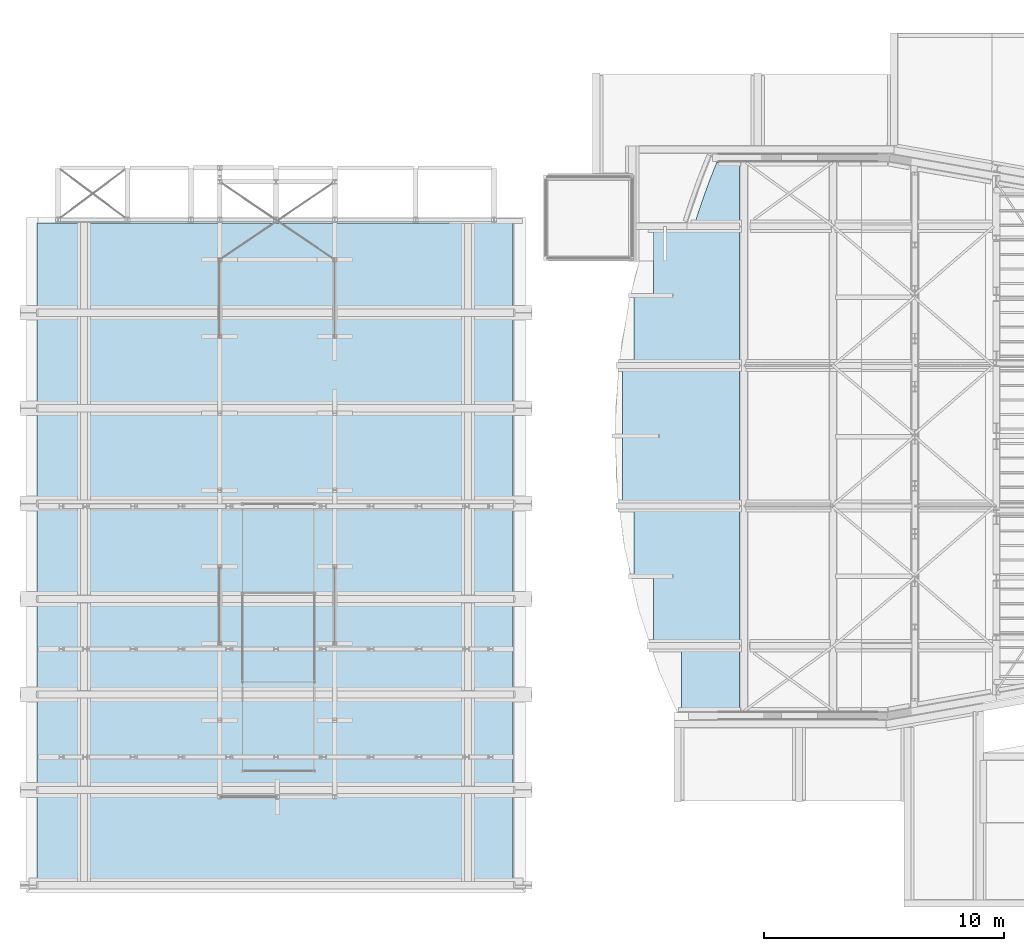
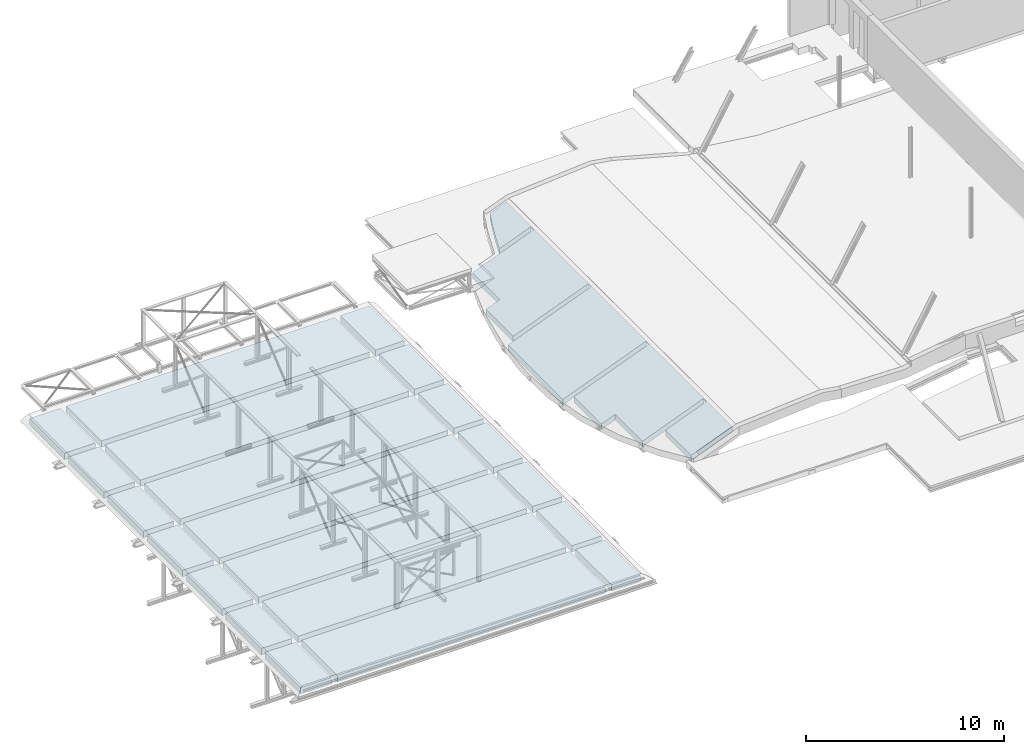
# One storey, part 36 of 50: 2 slabs, 4 openings.
"""IFC2X3 building model written with IfcOpenShell, lengths in millimetres."""

from ifc_helpers import new_model, entity, si_unit, converted_unit, derived_unit, direction, frame, frame_2d, origin, origin_2d_with_axis, place, context, subcontext, project, spatial, polyline, ellipse_curve, parameter, trimmed, segment, composite_curve, rectangle, outline, extrude, faceted_brep, material, layer, layer_set, layer_usage, type_object, element, save


model = new_model("IFC2X3")

# Units and contexts
model_context = context("Model", 3, precision=0.01, world=origin(), true_north=direction((6.12303176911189e-17, 1.0)))
body_context = subcontext(model_context, "Body", "Model", "MODEL_VIEW")
ifc_project = project(units=[si_unit("LENGTHUNIT", "METRE", prefix="MILLI"), si_unit("AREAUNIT", "SQUARE_METRE", prefix="MILLI"), si_unit("VOLUMEUNIT", "CUBIC_METRE"), converted_unit("PLANEANGLEUNIT", "DEGREE", entity("IfcRatioMeasure", 0.0174532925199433), si_unit("PLANEANGLEUNIT", "RADIAN"), dimensions=[0, 0, 0, 0, 0, 0, 0]), si_unit("MASSUNIT", "GRAM", prefix="KILO"), derived_unit("MASSDENSITYUNIT", [(si_unit("MASSUNIT", "GRAM", prefix="KILO"), 1), (si_unit("LENGTHUNIT", "METRE"), -3)]), derived_unit("MOMENTOFINERTIAUNIT", [(si_unit("LENGTHUNIT", "METRE"), 4)]), si_unit("TIMEUNIT", "SECOND"), si_unit("FREQUENCYUNIT", "HERTZ"), si_unit("THERMODYNAMICTEMPERATUREUNIT", "DEGREE_CELSIUS"), derived_unit("THERMALTRANSMITTANCEUNIT", [(si_unit("MASSUNIT", "GRAM", prefix="KILO"), 1), (si_unit("THERMODYNAMICTEMPERATUREUNIT", "KELVIN"), -1), (si_unit("TIMEUNIT", "SECOND"), -3)]), derived_unit("VOLUMETRICFLOWRATEUNIT", [(si_unit("LENGTHUNIT", "METRE"), 3), (si_unit("TIMEUNIT", "SECOND"), -1)]), si_unit("ELECTRICCURRENTUNIT", "AMPERE"), si_unit("ELECTRICVOLTAGEUNIT", "VOLT"), si_unit("POWERUNIT", "WATT"), si_unit("FORCEUNIT", "NEWTON", prefix="KILO"), si_unit("ILLUMINANCEUNIT", "LUX"), si_unit("LUMINOUSFLUXUNIT", "LUMEN"), si_unit("LUMINOUSINTENSITYUNIT", "CANDELA"), derived_unit("USERDEFINED", [(si_unit("MASSUNIT", "GRAM", prefix="KILO"), -1), (si_unit("LENGTHUNIT", "METRE"), -2), (si_unit("TIMEUNIT", "SECOND"), 3), (si_unit("LUMINOUSFLUXUNIT", "LUMEN"), 1)]), derived_unit("LINEARVELOCITYUNIT", [(si_unit("LENGTHUNIT", "METRE"), 1), (si_unit("TIMEUNIT", "SECOND"), -1)]), si_unit("PRESSUREUNIT", "PASCAL"), derived_unit("USERDEFINED", [(si_unit("LENGTHUNIT", "METRE"), -2), (si_unit("MASSUNIT", "GRAM", prefix="KILO"), 1), (si_unit("TIMEUNIT", "SECOND"), -2)]), derived_unit("LINEARFORCEUNIT", [(si_unit("MASSUNIT", "GRAM", prefix="KILO"), 1), (si_unit("LENGTHUNIT", "METRE"), 1), (si_unit("TIMEUNIT", "SECOND"), -2), (si_unit("LENGTHUNIT", "METRE"), -1)]), derived_unit("PLANARFORCEUNIT", [(si_unit("MASSUNIT", "GRAM", prefix="KILO"), 1), (si_unit("LENGTHUNIT", "METRE"), 1), (si_unit("TIMEUNIT", "SECOND"), -2), (si_unit("LENGTHUNIT", "METRE"), -2)])], contexts=[model_context])

# Site, building, storey
site_placement = place(None, origin())
site = spatial("IfcSite", under=ifc_project, at=site_placement, Name="Theater aan de Parade", CompositionType="ELEMENT")
building_placement = place(site_placement, origin())
building = spatial("IfcBuilding", under=site, at=building_placement, Name="Theater aan de Parade", CompositionType="ELEMENT")
storey_placement = place(building_placement, frame((0.0, 0.0, 15820.0)))
storey = spatial("IfcBuildingStorey", under=building, at=storey_placement, Name="04 vierde verdieping", CompositionType="ELEMENT", Elevation=15820.0)

# Slab
ifc_material = material(Name="00_PBT_MAT_systeemvloer")
ifc_layer_1 = layer(ifc_material, 400.0)
ifc_layer_set_1 = layer_set([ifc_layer_1], Name="Floor:28_PBT_FL_kanaalplaat_d=400")
ifc_layer_usage_1 = layer_usage(ifc_layer_set_1, "AXIS3", "POSITIVE", 0.0)
slab_type_1 = type_object("IfcSlabType", Name="Floor:28_PBT_FL_kanaalplaat_d=400", PredefinedType="FLOOR", material=ifc_layer_set_1)
slab_1_placement = place(storey_placement, origin())
element("IfcSlab", 1, at=slab_1_placement, inside=storey, type_object=slab_type_1, material=ifc_layer_usage_1, Name="Floor:28_PBT_FL_kanaalplaat_d=400", ObjectType="Floor:28_PBT_FL_kanaalplaat_d=400", PredefinedType="FLOOR", context=body_context, shape_type="SweptSolid", body=[
    extrude(rectangle(XDim=1710.56884748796, YDim=3600.0, at=frame_2d((-2.21689333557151e-12, -2.1600499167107e-12), x_axis=(1.0, 0.0))), frame((35134.641426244, 15704.2274014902, -430.0), z_axis=(0.0, 0.0, 1.0), x_axis=(-1.0, 0.0, 0.0)), (0.0, 0.0, 1.0), 400.0),
    extrude(rectangle(XDim=1800.5677198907, YDim=3600.0, at=frame_2d((2.1600499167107e-12, 0.0), x_axis=(1.0, 0.0))), frame((17028.0731425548, 15704.2274014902, -430.0)), (0.0, 0.0, 1.0), 400.0),
    extrude(rectangle(XDim=15670.9999999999, YDim=3600.0, at=frame_2d((-2.27373675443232e-12, 0.0), x_axis=(1.0, 0.0))), frame((26103.8570025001, 15704.2274014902, -430.0)), (0.0, 0.0, 1.0), 400.0),
    extrude(rectangle(XDim=1710.56884748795, YDim=3600.0, at=frame_2d((-2.1600499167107e-12, 0.0), x_axis=(1.0, 0.0))), frame((35134.641426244, 19684.2274014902, -430.0), z_axis=(0.0, 0.0, 1.0), x_axis=(-1.0, 0.0, 0.0)), (0.0, 0.0, 1.0), 400.0),
    extrude(rectangle(XDim=1800.56771989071, YDim=3600.0, at=frame_2d((1.08002495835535e-12, 0.0), x_axis=(1.0, 0.0))), frame((17028.0731425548, 19684.2274014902, -430.0)), (0.0, 0.0, 1.0), 400.0),
    extrude(rectangle(XDim=15670.9999999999, YDim=3600.0, at=frame_2d((-3.63797880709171e-12, 0.0), x_axis=(1.0, 0.0))), frame((26103.8570025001, 19684.2274014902, -430.0)), (0.0, 0.0, 1.0), 400.0),
    extrude(rectangle(XDim=1710.56884748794, YDim=3600.0, at=origin_2d_with_axis()), frame((35134.641426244, 23664.2274014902, -430.0), z_axis=(0.0, 0.0, 1.0), x_axis=(-1.0, 0.0, 0.0)), (0.0, 0.0, 1.0), 400.0),
    extrude(rectangle(XDim=1800.56771989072, YDim=3600.0, at=origin_2d_with_axis()), frame((17028.0731425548, 23664.2274014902, -430.0)), (0.0, 0.0, 1.0), 400.0),
    extrude(rectangle(XDim=1710.56884748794, YDim=3600.0, at=origin_2d_with_axis()), frame((35134.641426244, 27644.2274014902, -430.0), z_axis=(0.0, 0.0, 1.0), x_axis=(-1.0, 0.0, 0.0)), (0.0, 0.0, 1.0), 400.0),
    extrude(rectangle(XDim=1800.56771989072, YDim=3600.0, at=frame_2d((3.24007487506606e-12, 0.0), x_axis=(1.0, 0.0))), frame((17028.0731425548, 27644.2274014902, -430.0)), (0.0, 0.0, 1.0), 400.0),
    extrude(rectangle(XDim=15670.9999999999, YDim=3600.0, at=frame_2d((-3.63797880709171e-12, 0.0), x_axis=(1.0, 0.0))), frame((26103.8570025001, 27644.2274014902, -430.0)), (0.0, 0.0, 1.0), 400.0),
    extrude(rectangle(XDim=1710.56884748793, YDim=3600.0, at=frame_2d((-2.1600499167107e-12, 0.0), x_axis=(1.0, 0.0))), frame((35134.641426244, 31624.2274014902, -430.0), z_axis=(0.0, 0.0, 1.0), x_axis=(-1.0, 0.0, 0.0)), (0.0, 0.0, 1.0), 400.0),
    extrude(rectangle(XDim=1800.56771989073, YDim=3600.0, at=frame_2d((1.08002495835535e-12, 0.0), x_axis=(1.0, 0.0))), frame((17028.0731425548, 31624.2274014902, -430.0)), (0.0, 0.0, 1.0), 400.0),
    extrude(rectangle(XDim=15670.9999999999, YDim=3600.0, at=frame_2d((-4.54747350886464e-12, 0.0), x_axis=(1.0, 0.0))), frame((26103.8570025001, 31624.2274014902, -430.0)), (0.0, 0.0, 1.0), 400.0),
    extrude(rectangle(XDim=1710.56884748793, YDim=3600.0, at=frame_2d((-4.32009983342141e-12, 0.0), x_axis=(1.0, 0.0))), frame((35134.641426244, 35604.2274014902, -430.0), z_axis=(0.0, 0.0, 1.0), x_axis=(-1.0, 0.0, 0.0)), (0.0, 0.0, 1.0), 400.0),
    extrude(rectangle(XDim=1800.56771989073, YDim=3600.0, at=frame_2d((3.24007487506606e-12, 0.0), x_axis=(1.0, 0.0))), frame((17028.0731425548, 35604.2274014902, -430.0)), (0.0, 0.0, 1.0), 400.0),
    extrude(rectangle(XDim=15670.9999999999, YDim=3600.0, at=frame_2d((-3.63797880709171e-12, 0.0), x_axis=(1.0, 0.0))), frame((26103.8570025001, 35604.2274014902, -430.0)), (0.0, 0.0, 1.0), 400.0),
    extrude(rectangle(XDim=1710.56884748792, YDim=3549.99999999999, at=frame_2d((0.0, 584.693641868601), x_axis=(1.0, 0.0))), frame((35134.6414262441, 40143.9210433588, -430.0), z_axis=(0.0, 0.0, 1.0), x_axis=(-1.0, 0.0, 0.0)), (0.0, 0.0, 1.0), 400.0),
    extrude(rectangle(XDim=1800.56771989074, YDim=3549.99999999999, at=frame_2d((3.24007487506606e-12, -2.1600499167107e-12), x_axis=(1.0, 0.0))), frame((17028.0731425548, 39559.2274014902, -430.0)), (0.0, 0.0, 1.0), 400.0),
    extrude(rectangle(XDim=15670.9999999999, YDim=3549.99999999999, at=frame_2d((-2509.27675678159, -588.180154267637), x_axis=(1.0, 0.0))), frame((28613.1337592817, 40147.4075557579, -430.0)), (0.0, 0.0, 1.0), 400.0),
    extrude(rectangle(XDim=15670.9999999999, YDim=3600.0, at=frame_2d((4.54747350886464e-12, 0.0), x_axis=(1.0, 0.0))), frame((26103.8570025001, 23664.2274014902, -430.0), z_axis=(0.0, 0.0, 1.0), x_axis=(-1.0, 0.0, 0.0)), (0.0, 0.0, 1.0), 400.0),
])

# Slab, openings
ifc_layer_2 = layer(ifc_material, 320.0)
ifc_layer_set_2 = layer_set([ifc_layer_2], Name="Floor:28_PBT_FL_kanaalplaat_d=320")
ifc_layer_usage_2 = layer_usage(ifc_layer_set_2, "AXIS3", "POSITIVE", 0.0)
slab_type_2 = type_object("IfcSlabType", Name="Floor:28_PBT_FL_kanaalplaat_d=320", PredefinedType="FLOOR", material=ifc_layer_set_2)
slab_2_placement = place(storey_placement, frame((40562.3668347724, 20980.0, -695.570109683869)))
slab_2 = element("IfcSlab", 2, at=slab_2_placement, inside=storey, type_object=slab_type_2, material=ifc_layer_usage_2, Name="Floor:28_PBT_FL_kanaalplaat_d=320", ObjectType="Floor:28_PBT_FL_kanaalplaat_d=320", PredefinedType="FLOOR", context=body_context, shape_type="SweptSolid", body=[
    extrude(outline(composite_curve([segment(polyline([(2770.26541681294, -12300.7252410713), (2770.26541681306, 10579.2747589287)]), True, "CONTINUOUS"), segment(polyline([(2770.26541681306, 10579.2747589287), (1742.11446642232, 10579.2747589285)]), True, "CONTINUOUS"), segment(trimmed(ellipse_curve(frame_2d((31556.624371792, -830.725241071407), x_axis=(0.0, 1.0)), 30030.0, 32231.7061677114), [parameter(67.6692050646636)], [parameter(73.062554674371)], True, "PARAMETER"), True, "CONTINUOUS"), segment(polyline([(723.020255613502, 7917.83812628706), (-1093.67538251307, 7917.83812628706)]), True, "CONTINUOUS"), segment(polyline([(-1093.67538251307, 7917.83812628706), (-1093.67538251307, 5015.03676750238)]), True, "CONTINUOUS"), segment(polyline([(-1093.67538251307, 5015.03676750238), (-1960.70203204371, 5015.03676750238)]), True, "CONTINUOUS"), segment(polyline([(-1960.70203204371, 5015.03676750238), (-1960.70203204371, 2081.28676750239)]), True, "CONTINUOUS"), segment(polyline([(-1960.70203204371, 2081.28676750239), (-2464.98063631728, 2081.28676750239)]), True, "CONTINUOUS"), segment(polyline([(-2464.98063631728, 2081.28676750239), (-2464.98063631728, -3742.73724964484)]), True, "CONTINUOUS"), segment(polyline([(-2464.98063631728, -3742.73724964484), (-1960.70203204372, -3742.73724964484)]), True, "CONTINUOUS"), segment(polyline([(-1960.70203204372, -3742.73724964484), (-1960.70203204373, -6676.48724964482)]), True, "CONTINUOUS"), segment(polyline([(-1960.70203204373, -6676.48724964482), (-1093.67538251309, -6676.48724964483)]), True, "CONTINUOUS"), segment(polyline([(-1093.67538251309, -6676.48724964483), (-1093.6753825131, -9571.78860842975)]), True, "CONTINUOUS"), segment(polyline([(-1093.6753825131, -9571.78860842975), (172.838546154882, -9571.78860842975)]), True, "CONTINUOUS"), segment(polyline([(172.838546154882, -9571.78860842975), (172.838546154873, -12300.7252410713)]), True, "CONTINUOUS"), segment(polyline([(172.838546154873, -12300.7252410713), (2770.26541681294, -12300.7252410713)]), True, "CONTINUOUS")], self_intersect=False)), frame((2296.60099665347, 12300.7252410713, 1238.86823906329), z_axis=(-0.363251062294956, 0.0, 0.931691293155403), x_axis=(0.931691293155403, 0.0, 0.363251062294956)), (-0.363251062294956, 0.0, -0.931691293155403), 343.461404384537),
])
opening_1_placement = place(slab_2_placement, frame((981.65012466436, 2473.93663264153, 423.390549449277)))
element("IfcOpeningElement", 3, at=opening_1_placement, cuts=slab_2, ObjectType="Opening", context=body_context, shape_type="Brep", body=[
    faceted_brep([(3857.20168220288, 105.0, 1806.6597431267), (3857.20168220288, 405.0, 1806.6597431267), (0.0, 405.0, 302.7996489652), (0.0, 105.0, 302.7996489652), (3974.53182964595, 0.0, 1505.72347661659), (3974.89508087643, 0.0, 1504.79178538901), (3974.89508087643, 105.0, 1504.79178538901), (3974.89508087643, 405.0, 1504.79178538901), (3975.25833210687, 105.0, 1503.8600941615), (3975.25833210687, 405.0, 1503.8600941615), (3974.53182964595, 510.0, 1505.72347661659), (3974.89508087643, 510.0, 1504.79178538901), (3974.53182964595, 405.0, 1505.72347661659), (3974.53182964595, 105.0, 1505.72347661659), (117.693398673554, 105.0, 0.931691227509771), (117.693398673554, 0.0, 0.931691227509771), (117.330147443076, 0.0, 1.86338245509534), (118.056649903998, 105.0, 0.0), (117.693398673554, 405.0, 0.931691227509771), (118.056649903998, 405.0, 0.0), (117.693398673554, 510.0, 0.931691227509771), (117.330147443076, 510.0, 1.86338245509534), (117.330147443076, 405.0, 1.86338245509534), (117.330147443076, 105.0, 1.86338245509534), (3509.04946708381, 405.0, 1323.16617015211), (3508.68621585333, 405.0, 1324.09786137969), (257.447082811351, 405.0, 55.4193757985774), (257.083831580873, 405.0, 56.351067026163), (3601.85533861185, 105.0, 1360.42298442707), (3602.21858984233, 105.0, 1359.49129319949), (210.862521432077, 105.0, 37.2568142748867), (210.499270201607, 105.0, 38.1885055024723), (257.083831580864, 510.0, 56.351067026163), (257.447082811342, 510.0, 55.4193757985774), (210.499270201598, 0.0, 38.1885055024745), (210.862521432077, 0.0, 37.2568142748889), (3508.68621585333, 510.0, 1324.0978613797), (3509.04946708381, 510.0, 1323.16617015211), (3601.85533861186, 0.0, 1360.42298442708), (3602.21858984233, 0.0, 1359.49129319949)], [[[0, 1, 2]], [[2, 3, 0]], [[4, 5, 6]], [[7, 6, 8]], [[8, 9, 7]], [[10, 7, 11]], [[7, 12, 6]], [[1, 0, 13]], [[6, 12, 13]], [[12, 7, 10]], [[13, 12, 1]], [[13, 4, 6]], [[14, 15, 16]], [[17, 14, 18]], [[18, 19, 17]], [[20, 18, 21]], [[14, 22, 18]], [[23, 3, 2]], [[23, 22, 14]], [[21, 18, 22]], [[2, 22, 23]], [[14, 16, 23]], [[9, 24, 7]], [[24, 9, 19]], [[1, 12, 25]], [[1, 25, 2]], [[24, 26, 25]], [[26, 19, 18]], [[19, 26, 24]], [[27, 22, 2]], [[27, 2, 25]], [[26, 27, 25]], [[0, 28, 13]], [[28, 0, 3]], [[8, 6, 29]], [[8, 29, 17]], [[28, 30, 29]], [[31, 3, 23]], [[3, 31, 28]], [[30, 14, 17]], [[30, 17, 29]], [[31, 30, 28]], [[9, 8, 17]], [[17, 19, 9]], [[22, 27, 32]], [[32, 21, 22]], [[20, 33, 26]], [[26, 18, 20]], [[32, 27, 33]], [[26, 33, 27]], [[21, 32, 33]], [[33, 20, 21]], [[34, 31, 16]], [[23, 16, 31]], [[15, 14, 35]], [[30, 35, 14]], [[34, 16, 15]], [[15, 35, 34]], [[31, 34, 35]], [[35, 30, 31]], [[25, 12, 36]], [[10, 36, 12]], [[37, 11, 24]], [[7, 24, 11]], [[36, 10, 11]], [[11, 37, 36]], [[25, 36, 37]], [[37, 24, 25]], [[38, 4, 13]], [[13, 28, 38]], [[29, 6, 5]], [[5, 39, 29]], [[38, 28, 29]], [[29, 39, 38]], [[4, 38, 39]], [[39, 5, 4]]]),
])
opening_2_placement = place(slab_2_placement, frame((-304.083769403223, 8302.98799142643, -77.8961486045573)))
element("IfcOpeningElement", 4, at=opening_2_placement, cuts=slab_2, ObjectType="Opening", context=body_context, shape_type="Brep", body=[
    faceted_brep([(5142.93557627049, 105.0, 2307.94644118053), (5142.93557627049, 405.0, 2307.94644118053), (0.0, 405.0, 302.7996489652), (0.0, 105.0, 302.7996489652), (5260.26572371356, 0.0, 2007.01017467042), (5260.62897494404, 0.0, 2006.07848344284), (5260.62897494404, 105.0, 2006.07848344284), (5260.62897494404, 405.0, 2006.07848344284), (5260.99222617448, 105.0, 2005.14679221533), (5260.99222617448, 405.0, 2005.14679221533), (5260.26572371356, 510.0, 2007.01017467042), (5260.62897494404, 510.0, 2006.07848344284), (5260.26572371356, 405.0, 2007.01017467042), (5260.26572371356, 105.0, 2007.01017467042), (117.693398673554, 105.0, 0.931691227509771), (117.693398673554, 0.0, 0.931691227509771), (117.330147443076, 0.0, 1.86338245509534), (118.056649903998, 105.0, 0.0), (117.693398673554, 405.0, 0.931691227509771), (118.056649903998, 405.0, 0.0), (117.693398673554, 510.0, 0.931691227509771), (117.330147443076, 510.0, 1.86338245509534), (117.330147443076, 405.0, 1.86338245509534), (117.330147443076, 105.0, 1.86338245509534), (4794.78336115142, 405.0, 1824.45286820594), (4794.42010992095, 405.0, 1825.38455943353), (257.447082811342, 405.0, 55.4193757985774), (257.083831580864, 405.0, 56.351067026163), (4887.58923267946, 105.0, 1861.70968248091), (4887.95248390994, 105.0, 1860.77799125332), (210.862521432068, 105.0, 37.2568142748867), (210.499270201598, 105.0, 38.1885055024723), (257.083831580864, 510.0, 56.351067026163), (257.447082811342, 510.0, 55.4193757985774), (210.499270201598, 0.0, 38.1885055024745), (210.862521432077, 0.0, 37.2568142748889), (4794.42010992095, 510.0, 1825.38455943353), (4794.78336115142, 510.0, 1824.45286820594), (4887.58923267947, 0.0, 1861.70968248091), (4887.95248390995, 0.0, 1860.77799125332)], [[[0, 1, 2]], [[2, 3, 0]], [[4, 5, 6]], [[7, 6, 8]], [[8, 9, 7]], [[10, 7, 11]], [[7, 12, 6]], [[1, 0, 13]], [[6, 12, 13]], [[12, 7, 10]], [[13, 12, 1]], [[13, 4, 6]], [[14, 15, 16]], [[17, 14, 18]], [[18, 19, 17]], [[20, 18, 21]], [[14, 22, 18]], [[23, 3, 2]], [[23, 22, 14]], [[21, 18, 22]], [[2, 22, 23]], [[14, 16, 23]], [[9, 24, 7]], [[24, 9, 19]], [[1, 12, 25]], [[1, 25, 2]], [[24, 26, 25]], [[26, 19, 18]], [[19, 26, 24]], [[27, 22, 2]], [[27, 2, 25]], [[26, 27, 25]], [[0, 28, 13]], [[28, 0, 3]], [[8, 6, 29]], [[8, 29, 17]], [[28, 30, 29]], [[31, 3, 23]], [[3, 31, 28]], [[30, 14, 17]], [[30, 17, 29]], [[31, 30, 28]], [[9, 8, 17]], [[17, 19, 9]], [[22, 27, 32]], [[32, 21, 22]], [[20, 33, 18]], [[26, 18, 33]], [[32, 27, 33]], [[26, 33, 27]], [[21, 32, 33]], [[33, 20, 21]], [[34, 31, 23]], [[23, 16, 34]], [[15, 14, 35]], [[30, 35, 14]], [[34, 16, 15]], [[15, 35, 34]], [[31, 34, 35]], [[35, 30, 31]], [[25, 12, 10]], [[10, 36, 25]], [[37, 11, 24]], [[7, 24, 11]], [[36, 10, 11]], [[11, 37, 36]], [[25, 36, 37]], [[37, 24, 25]], [[38, 4, 28]], [[13, 28, 4]], [[29, 6, 5]], [[5, 39, 29]], [[38, 28, 29]], [[29, 39, 38]], [[4, 38, 39]], [[39, 5, 4]]]),
])
opening_3_placement = place(slab_2_placement, frame((-308.527631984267, 14154.5120085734, -79.6287382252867)))
element("IfcOpeningElement", 5, at=opening_3_placement, cuts=slab_2, ObjectType="Opening", context=body_context, shape_type="Brep", body=[
    faceted_brep([(5147.37943885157, 105.0, 2309.67903080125), (5147.37943885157, 405.0, 2309.67903080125), (0.0, 405.0, 302.7996489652), (0.0, 105.0, 302.7996489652), (5264.70958629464, 0.0, 2008.74276429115), (5265.07283752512, 0.0, 2007.81107306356), (5265.07283752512, 105.0, 2007.81107306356), (5265.07283752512, 405.0, 2007.81107306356), (5265.43608875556, 105.0, 2006.87938183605), (5265.43608875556, 405.0, 2006.87938183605), (5264.70958629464, 510.0, 2008.74276429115), (5265.07283752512, 510.0, 2007.81107306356), (5264.70958629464, 405.0, 2008.74276429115), (5264.70958629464, 105.0, 2008.74276429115), (117.693398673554, 105.0, 0.931691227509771), (117.693398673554, 0.0, 0.931691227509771), (117.330147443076, 0.0, 1.86338245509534), (118.056649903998, 105.0, 0.0), (117.693398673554, 405.0, 0.931691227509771), (118.056649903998, 405.0, 0.0), (117.693398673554, 510.0, 0.931691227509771), (117.330147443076, 510.0, 1.86338245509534), (117.330147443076, 405.0, 1.86338245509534), (117.330147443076, 105.0, 1.86338245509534), (4799.2272237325, 405.0, 1826.18545782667), (4798.86397250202, 405.0, 1827.11714905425), (257.447082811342, 405.0, 55.4193757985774), (257.083831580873, 405.0, 56.351067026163), (4892.03309526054, 105.0, 1863.44227210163), (4892.39634649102, 105.0, 1862.51058087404), (210.862521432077, 105.0, 37.2568142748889), (210.499270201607, 105.0, 38.1885055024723), (257.083831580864, 510.0, 56.351067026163), (257.447082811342, 510.0, 55.4193757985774), (210.499270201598, 0.0, 38.1885055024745), (210.862521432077, 0.0, 37.2568142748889), (4798.86397250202, 510.0, 1827.11714905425), (4799.2272237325, 510.0, 1826.18545782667), (4892.03309526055, 0.0, 1863.44227210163), (4892.39634649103, 0.0, 1862.51058087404)], [[[0, 1, 2]], [[2, 3, 0]], [[4, 5, 6]], [[7, 6, 8]], [[8, 9, 7]], [[10, 7, 11]], [[7, 12, 6]], [[1, 0, 13]], [[6, 12, 13]], [[12, 7, 10]], [[13, 12, 1]], [[13, 4, 6]], [[14, 15, 16]], [[17, 14, 18]], [[18, 19, 17]], [[20, 18, 21]], [[14, 22, 18]], [[23, 3, 2]], [[23, 22, 14]], [[21, 18, 22]], [[2, 22, 23]], [[14, 16, 23]], [[9, 24, 7]], [[24, 9, 19]], [[1, 12, 25]], [[1, 25, 2]], [[24, 26, 25]], [[26, 19, 18]], [[19, 26, 24]], [[27, 22, 2]], [[27, 2, 25]], [[26, 27, 25]], [[0, 28, 13]], [[28, 0, 3]], [[8, 6, 29]], [[8, 29, 17]], [[28, 30, 29]], [[31, 3, 23]], [[3, 31, 28]], [[30, 14, 17]], [[30, 17, 29]], [[31, 30, 28]], [[9, 8, 17]], [[17, 19, 9]], [[22, 27, 32]], [[32, 21, 22]], [[20, 33, 26]], [[26, 18, 20]], [[32, 27, 33]], [[26, 33, 27]], [[21, 32, 33]], [[33, 20, 21]], [[34, 31, 23]], [[23, 16, 34]], [[15, 14, 35]], [[30, 35, 14]], [[34, 16, 15]], [[15, 35, 34]], [[31, 34, 35]], [[35, 30, 31]], [[25, 12, 10]], [[10, 36, 25]], [[37, 11, 24]], [[7, 24, 11]], [[36, 10, 11]], [[11, 37, 36]], [[25, 36, 37]], [[37, 24, 25]], [[38, 4, 28]], [[13, 28, 4]], [[29, 6, 5]], [[5, 39, 29]], [[38, 28, 29]], [[29, 39, 38]], [[4, 38, 39]], [[39, 5, 4]]]),
])
opening_4_placement = place(slab_2_placement, frame((865.188721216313, 19963.5633673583, 377.984145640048)))
element("IfcOpeningElement", 6, at=opening_4_placement, cuts=slab_2, ObjectType="Opening", context=body_context, shape_type="Brep", body=[
    faceted_brep([(3973.66308565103, 105.0, 1852.06614693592), (3973.66308565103, 405.0, 1852.06614693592), (0.0, 405.0, 302.7996489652), (0.0, 105.0, 302.7996489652), (3625.14761930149, 510.0, 1369.50426518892), (4090.9932330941, 510.0, 1551.12988042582), (4091.35648432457, 510.0, 1550.19818919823), (3625.51087053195, 510.0, 1368.57257396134), (4090.9932330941, 0.0, 1551.12988042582), (4091.35648432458, 0.0, 1550.19818919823), (4091.35648432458, 105.0, 1550.19818919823), (4091.35648432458, 405.0, 1550.19818919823), (4091.71973555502, 105.0, 1549.26649797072), (4091.71973555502, 405.0, 1549.26649797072), (4090.9932330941, 405.0, 1551.12988042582), (4090.9932330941, 105.0, 1551.12988042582), (118.056649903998, 405.0, 0.0), (117.693398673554, 105.0, 0.931691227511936), (117.330147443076, 105.0, 1.86338245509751), (118.056649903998, 105.0, 0.0), (117.693398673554, 0.0, 0.931691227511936), (117.330147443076, 0.0, 1.86338245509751), (3625.51087053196, 405.0, 1368.57257396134), (3625.14761930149, 405.0, 1369.50426518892), (3718.31674206, 105.0, 1405.8293882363), (3718.67999329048, 105.0, 1404.89769700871), (210.862521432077, 105.0, 37.2568142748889), (210.499270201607, 105.0, 38.1885055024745), (210.499270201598, 0.0, 38.1885055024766), (210.862521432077, 0.0, 37.2568142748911), (3718.31674206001, 0.0, 1405.8293882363), (3718.67999329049, 0.0, 1404.89769700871)], [[[0, 1, 2]], [[2, 3, 0]], [[4, 5, 6]], [[6, 7, 4]], [[8, 9, 10]], [[11, 10, 12]], [[12, 13, 11]], [[5, 11, 6]], [[11, 14, 10]], [[1, 0, 15]], [[10, 14, 15]], [[14, 11, 5]], [[15, 14, 1]], [[15, 8, 10]], [[16, 17, 18]], [[17, 16, 19]], [[20, 21, 17]], [[18, 2, 16]], [[2, 18, 3]], [[21, 18, 17]], [[11, 13, 22]], [[1, 14, 23]], [[22, 16, 23]], [[16, 22, 13]], [[23, 2, 1]], [[2, 23, 16]], [[0, 24, 15]], [[24, 0, 3]], [[12, 10, 25]], [[12, 25, 19]], [[24, 26, 25]], [[27, 3, 18]], [[3, 27, 24]], [[26, 17, 19]], [[26, 19, 25]], [[27, 26, 24]], [[13, 12, 19]], [[19, 16, 13]], [[28, 27, 21]], [[18, 21, 27]], [[20, 17, 29]], [[26, 29, 17]], [[28, 21, 20]], [[20, 29, 28]], [[27, 28, 29]], [[29, 26, 27]], [[23, 14, 4]], [[5, 4, 14]], [[7, 6, 22]], [[11, 22, 6]], [[23, 4, 7]], [[7, 22, 23]], [[30, 8, 15]], [[15, 24, 30]], [[25, 10, 9]], [[9, 31, 25]], [[30, 24, 25]], [[25, 31, 30]], [[8, 30, 31]], [[31, 9, 8]]]),
])

save(model, "model.ifc")
